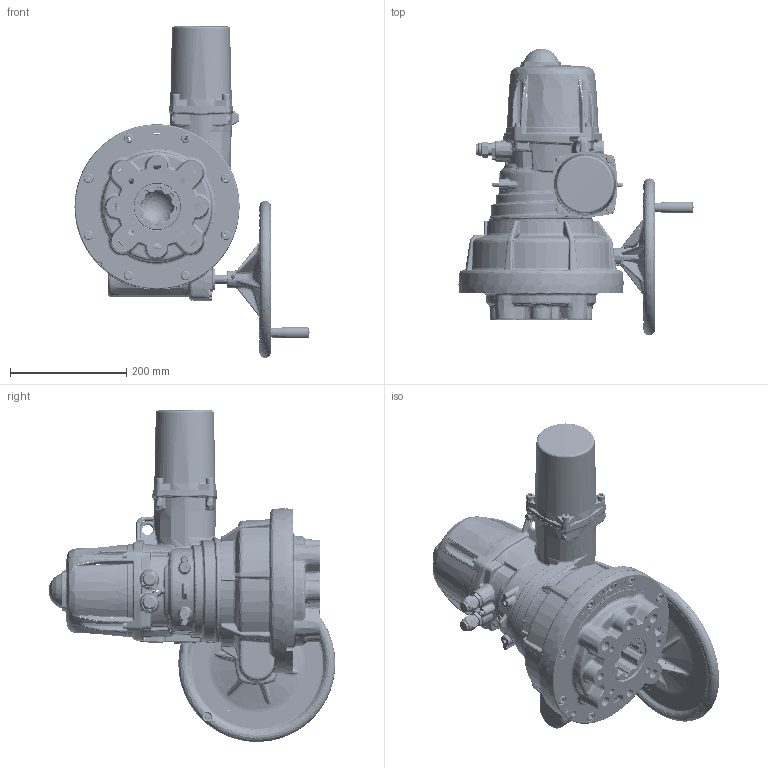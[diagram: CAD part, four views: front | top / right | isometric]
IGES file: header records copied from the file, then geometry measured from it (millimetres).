
Start section: SolidWorks IGES file using analytic representation for surfaces
Global section: file name: S:\Assemblages 3D produits\01-Actionneurs électriques\VT2400-C08-G00\VT2400-C08-G00.IGS; native system: SolidWorks 2017; preprocessor: SolidWorks 2017; author: caillatl; date: 220308.170305; units: millimetre
Bounding box: 404.11 x 492.74 x 570.75 mm (x, y, z)
Surface area: 787820.4 mm2 (no closed solid volume)
Topology: 0 solids, 0 shells, 3387 faces, 39757 edges, 39715 vertices
Faces by surface type: bspline 2334, revolution 1053
